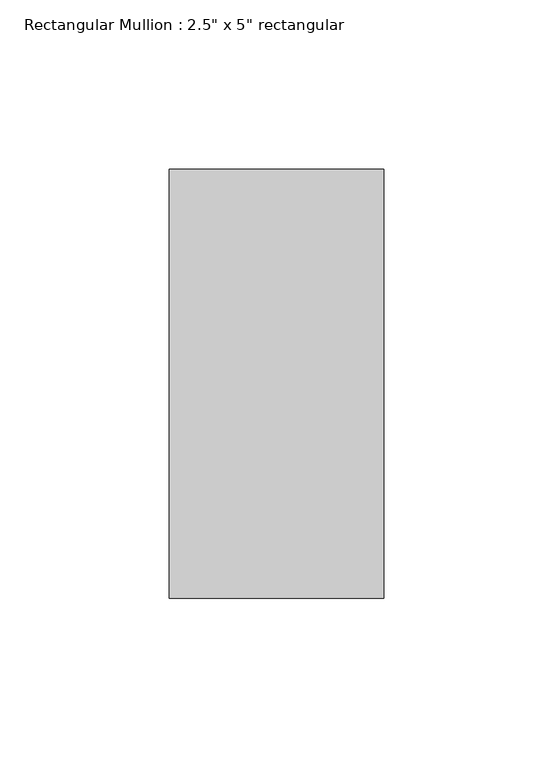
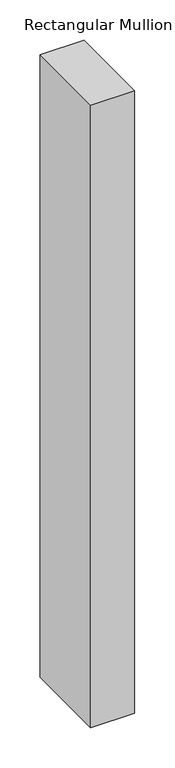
"""IFC4 building model written with IfcOpenShell, lengths in millimetres: member geometry."""

from ifc_helpers import new_model, si_unit, frame, origin, place, context, project, spatial, polyline, outline, extrude, source, transform, mapped, element, save


def member_bc0ecbbc(model_context):
    return source(origin(), model_context, "Body", "SweptSolid", [
        extrude(outline(polyline([(0.0, 63.5), (0.0, -63.5), (-63.5, -63.5), (-63.5, 63.5), (0.0, 63.5)])), frame((0.0, 0.0, -948.8714286), z_axis=(0.0, 0.0, 1.0), x_axis=(1.0, 0.0, 0.0)), (0.0, 0.0, 1.0), 948.8714286),
    ])


if __name__ == "__main__":
    model = new_model("IFC4")
    model_context = context("Model", 3, world=origin())
    ifc_project = project(units=[si_unit("LENGTHUNIT", "METRE", prefix="MILLI")], contexts=[model_context])
    site = spatial("IfcSite", under=ifc_project)
    building = spatial("IfcBuilding", under=site)
    placement = place(None, origin())
    member_shape = member_bc0ecbbc(model_context)
    element("IfcMember", 1, ObjectType="Rectangular Mullion : 2.5\" x 5\" rectangular", at=placement, inside=building, context=model_context, shape_type="MappedRepresentation", body=[
        mapped(member_shape, transform((0.0, 0.0, 0.0), x_axis=(1.0, 0.0, 0.0), y_axis=(0.0, 1.0, 0.0), z_axis=(0.0, 0.0, 1.0))),
    ])
    save(model, "model.ifc")
